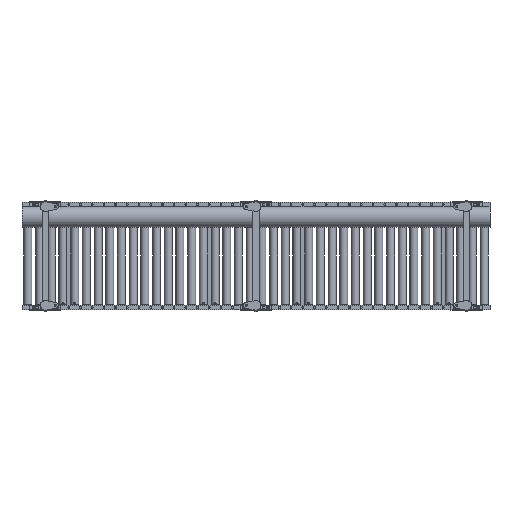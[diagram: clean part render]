
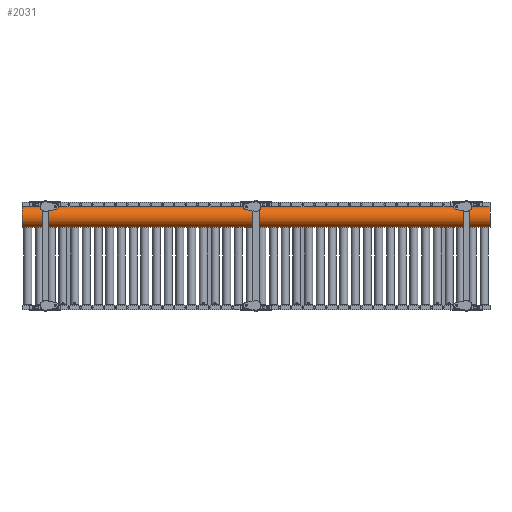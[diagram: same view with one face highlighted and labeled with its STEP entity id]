
A CAD part, front view. The second image highlights one B-rep face of the part: STEP entity #2031.
In plain terms, the highlighted cylindrical face has radius 66.89 mm (diameter 133.78 mm), a partial arc.
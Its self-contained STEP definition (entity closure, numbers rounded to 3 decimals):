
#1432 = DIRECTION ( 'NONE',  ( 0., 0., 1. ) ) ;
#2031 = ADVANCED_FACE ( 'NONE', ( #101319 ), #124400, .T. ) ;
#2257 = CARTESIAN_POINT ( 'NONE',  ( 0., -150., 183.22 ) ) ;
#6154 = CARTESIAN_POINT ( 'NONE',  ( -3000., -150., 250.11 ) ) ;
#9405 = CARTESIAN_POINT ( 'NONE',  ( -3177.652, -150., 317. ) ) ;
#17066 = VERTEX_POINT ( 'NONE', #104206 ) ;
#18345 = EDGE_CURVE ( 'NONE', #162027, #128142, #129431, .T. ) ;
#20628 = CARTESIAN_POINT ( 'NONE',  ( -3000., -150., 317. ) ) ;
#20677 = CARTESIAN_POINT ( 'NONE',  ( -3000., -150., 183.22 ) ) ;
#32662 = LINE ( 'NONE', #9405, #189379 ) ;
#39741 = ORIENTED_EDGE ( 'NONE', *, *, #182271, .F. ) ;
#43140 = DIRECTION ( 'NONE',  ( 1., 0., 0. ) ) ;
#48220 = DIRECTION ( 'NONE',  ( 0., 0., 1. ) ) ;
#57286 = CARTESIAN_POINT ( 'NONE',  ( -3177.652, -150., 250.11 ) ) ;
#59239 = AXIS2_PLACEMENT_3D ( 'NONE', #89751, #87202, #1432 ) ;
#73546 = EDGE_LOOP ( 'NONE', ( #94811, #77802, #189429, #39741 ) ) ;
#74525 = DIRECTION ( 'NONE',  ( 0., 0., -1. ) ) ;
#77802 = ORIENTED_EDGE ( 'NONE', *, *, #18345, .T. ) ;
#81676 = DIRECTION ( 'NONE',  ( 1., 0., 0. ) ) ;
#82779 = CARTESIAN_POINT ( 'NONE',  ( -3177.652, -150., 183.22 ) ) ;
#86669 = CIRCLE ( 'NONE', #59239, 66.89 ) ;
#87202 = DIRECTION ( 'NONE',  ( 1., 0., 0. ) ) ;
#89751 = CARTESIAN_POINT ( 'NONE',  ( 0., -150., 250.11 ) ) ;
#94811 = ORIENTED_EDGE ( 'NONE', *, *, #140138, .F. ) ;
#101319 = FACE_OUTER_BOUND ( 'NONE', #73546, .T. ) ;
#104206 = CARTESIAN_POINT ( 'NONE',  ( 0., -150., 317. ) ) ;
#105137 = AXIS2_PLACEMENT_3D ( 'NONE', #6154, #109323, #48220 ) ;
#109323 = DIRECTION ( 'NONE',  ( 1., 0., 0. ) ) ;
#124400 = CYLINDRICAL_SURFACE ( 'NONE', #131066, 66.89 ) ;
#128142 = VERTEX_POINT ( 'NONE', #20677 ) ;
#128405 = LINE ( 'NONE', #82779, #169826 ) ;
#129431 = CIRCLE ( 'NONE', #105137, 66.89 ) ;
#131066 = AXIS2_PLACEMENT_3D ( 'NONE', #57286, #43140, #74525 ) ;
#140138 = EDGE_CURVE ( 'NONE', #162027, #17066, #32662, .T. ) ;
#162027 = VERTEX_POINT ( 'NONE', #20628 ) ;
#169826 = VECTOR ( 'NONE', #170348, 1000. ) ;
#170348 = DIRECTION ( 'NONE',  ( 1., 0., 0. ) ) ;
#182047 = EDGE_CURVE ( 'NONE', #128142, #187535, #128405, .T. ) ;
#182271 = EDGE_CURVE ( 'NONE', #17066, #187535, #86669, .T. ) ;
#187535 = VERTEX_POINT ( 'NONE', #2257 ) ;
#189379 = VECTOR ( 'NONE', #81676, 1000. ) ;
#189429 = ORIENTED_EDGE ( 'NONE', *, *, #182047, .T. ) ;
